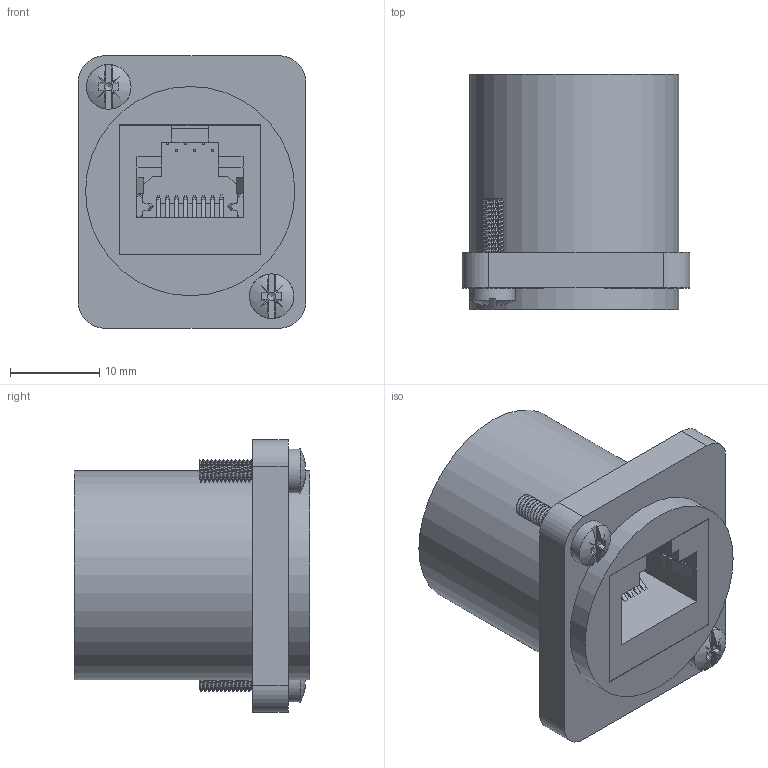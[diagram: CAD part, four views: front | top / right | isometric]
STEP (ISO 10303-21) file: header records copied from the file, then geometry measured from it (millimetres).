
FILE_DESCRIPTION(('FreeCAD Model'),'2;1');
FILE_NAME('Open CASCADE Shape Model','2024-03-07T12:42:16',(''),(''), 'Open CASCADE STEP processor 7.6','FreeCAD','Unknown');
FILE_SCHEMA(('AUTOMOTIVE_DESIGN { 1 0 10303 214 1 1 1 1 }'));
Length unit declared in the file: millimetre
Products named in the file (6): Unnamed1; Schraube M2,5x10#002; Schraube M2,5x10#001; 49150_Connector; CUC-IND-J1ST-S_R4LS-S002; CUC-IND-J1ST-S_R4LS-S001
Assembly tree (5 placements, depth 2):
  Unnamed1
    Schraube M2,5x10#002
    Schraube M2,5x10#001
    49150_Connector
    CUC-IND-J1ST-S_R4LS-S002
    CUC-IND-J1ST-S_R4LS-S001
Bounding box: 25.6 x 26.4 x 30.6 mm (x, y, z)
Volume: 6798.6 mm3; surface area: 10522.2 mm2
Topology: 5 solids, 5 shells, 806 faces, 2184 edges, 1448 vertices
Faces by surface type: plane 584, cylinder 192, torus 18, bspline 6, sphere 4, cone 2
Full cylindrical faces by diameter (mm): 2.5 x2, 5 x2, 22.5 x2, 23.5 x2
Entity records: 75274 total; most frequent: CARTESIAN_POINT 55126, ORIENTED_EDGE 4364, DIRECTION 3880, EDGE_CURVE 2182, LINE 1680, VECTOR 1680, VERTEX_POINT 1448, AXIS2_PLACEMENT_3D 1100
